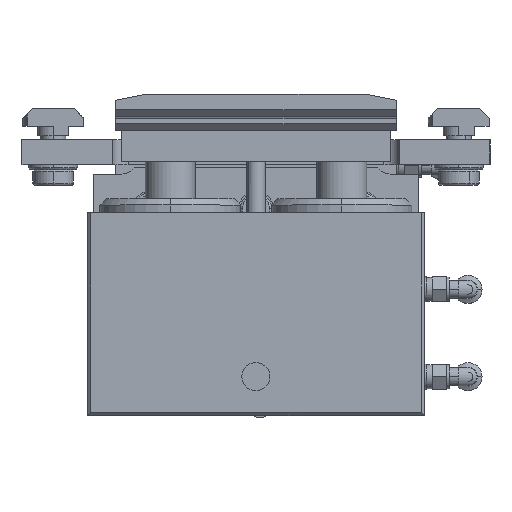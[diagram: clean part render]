
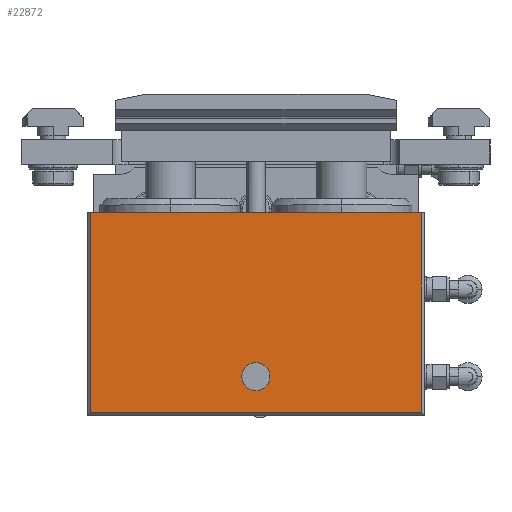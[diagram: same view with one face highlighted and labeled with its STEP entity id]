
A CAD part, top view. The second image highlights one B-rep face of the part: STEP entity #22872.
In plain terms, the highlighted planar face has unit normal (0, 0, 1).
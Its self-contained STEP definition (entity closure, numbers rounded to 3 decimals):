
#334 = CARTESIAN_POINT ( 'NONE',  ( -8., -43.5, 156.6 ) ) ;
#453 = CARTESIAN_POINT ( 'NONE',  ( 98.95, 20.5, 156.6 ) ) ;
#1019 = DIRECTION ( 'NONE',  ( 0., 1., 0. ) ) ;
#1382 = PLANE ( 'NONE',  #8789 ) ;
#2739 = CARTESIAN_POINT ( 'NONE',  ( 98.95, -43.5, 156.6 ) ) ;
#2863 = CARTESIAN_POINT ( 'NONE',  ( 44.95, -36.5, 156.6 ) ) ;
#3307 = LINE ( 'NONE', #12588, #15068 ) ;
#4128 = DIRECTION ( 'NONE',  ( 0., -1., 0. ) ) ;
#4734 = DIRECTION ( 'NONE',  ( 1., 0., 0. ) ) ;
#5171 = LINE ( 'NONE', #453, #19358 ) ;
#5822 = CIRCLE ( 'NONE', #9699, 4.5 ) ;
#6584 = DIRECTION ( 'NONE',  ( 1., 0., 0. ) ) ;
#7066 = CARTESIAN_POINT ( 'NONE',  ( 97.95, 20.5, 156.6 ) ) ;
#8369 = CARTESIAN_POINT ( 'NONE',  ( 98.95, 20.5, 156.6 ) ) ;
#8517 = DIRECTION ( 'NONE',  ( 0., 0., -1. ) ) ;
#8789 = AXIS2_PLACEMENT_3D ( 'NONE', #8369, #8517, #4128 ) ;
#9691 = CARTESIAN_POINT ( 'NONE',  ( 97.95, -43.5, 156.6 ) ) ;
#9699 = AXIS2_PLACEMENT_3D ( 'NONE', #11300, #27428, #15868 ) ;
#11009 = LINE ( 'NONE', #13457, #28178 ) ;
#11300 = CARTESIAN_POINT ( 'NONE',  ( 44.95, -32., 156.6 ) ) ;
#11896 = EDGE_CURVE ( 'NONE', #14889, #22853, #5822, .T. ) ;
#12137 = EDGE_CURVE ( 'NONE', #13278, #20334, #11009, .T. ) ;
#12588 = CARTESIAN_POINT ( 'NONE',  ( -8., 20.5, 156.6 ) ) ;
#12949 = AXIS2_PLACEMENT_3D ( 'NONE', #17397, #24264, #21997 ) ;
#13278 = VERTEX_POINT ( 'NONE', #9691 ) ;
#13412 = EDGE_CURVE ( 'NONE', #13715, #23433, #3307, .T. ) ;
#13457 = CARTESIAN_POINT ( 'NONE',  ( 97.95, 20.5, 156.6 ) ) ;
#13715 = VERTEX_POINT ( 'NONE', #14545 ) ;
#14545 = CARTESIAN_POINT ( 'NONE',  ( -8., 20.5, 156.6 ) ) ;
#14889 = VERTEX_POINT ( 'NONE', #2863 ) ;
#15068 = VECTOR ( 'NONE', #21883, 1000. ) ;
#15868 = DIRECTION ( 'NONE',  ( 0., 1., 0. ) ) ;
#16835 = EDGE_LOOP ( 'NONE', ( #26470, #20588, #20120, #28537 ) ) ;
#17040 = VECTOR ( 'NONE', #4734, 1000. ) ;
#17397 = CARTESIAN_POINT ( 'NONE',  ( 44.95, -32., 156.6 ) ) ;
#19358 = VECTOR ( 'NONE', #6584, 1000. ) ;
#19540 = EDGE_CURVE ( 'NONE', #13715, #20334, #5171, .T. ) ;
#19786 = CARTESIAN_POINT ( 'NONE',  ( 44.95, -27.5, 156.6 ) ) ;
#20120 = ORIENTED_EDGE ( 'NONE', *, *, #24530, .T. ) ;
#20334 = VERTEX_POINT ( 'NONE', #7066 ) ;
#20588 = ORIENTED_EDGE ( 'NONE', *, *, #13412, .T. ) ;
#21883 = DIRECTION ( 'NONE',  ( 0., -1., 0. ) ) ;
#21997 = DIRECTION ( 'NONE',  ( 0., 1., 0. ) ) ;
#22358 = ORIENTED_EDGE ( 'NONE', *, *, #28262, .F. ) ;
#22853 = VERTEX_POINT ( 'NONE', #19786 ) ;
#22872 = ADVANCED_FACE ( 'NONE', ( #24518, #24663 ), #1382, .F. ) ;
#23433 = VERTEX_POINT ( 'NONE', #334 ) ;
#23606 = LINE ( 'NONE', #2739, #17040 ) ;
#24120 = CIRCLE ( 'NONE', #12949, 4.5 ) ;
#24264 = DIRECTION ( 'NONE',  ( 0., 0., 1. ) ) ;
#24518 = FACE_BOUND ( 'NONE', #26418, .T. ) ;
#24530 = EDGE_CURVE ( 'NONE', #23433, #13278, #23606, .T. ) ;
#24663 = FACE_OUTER_BOUND ( 'NONE', #16835, .T. ) ;
#26418 = EDGE_LOOP ( 'NONE', ( #22358, #28091 ) ) ;
#26470 = ORIENTED_EDGE ( 'NONE', *, *, #19540, .F. ) ;
#27428 = DIRECTION ( 'NONE',  ( 0., 0., 1. ) ) ;
#28091 = ORIENTED_EDGE ( 'NONE', *, *, #11896, .F. ) ;
#28178 = VECTOR ( 'NONE', #1019, 1000. ) ;
#28262 = EDGE_CURVE ( 'NONE', #22853, #14889, #24120, .T. ) ;
#28537 = ORIENTED_EDGE ( 'NONE', *, *, #12137, .T. ) ;
